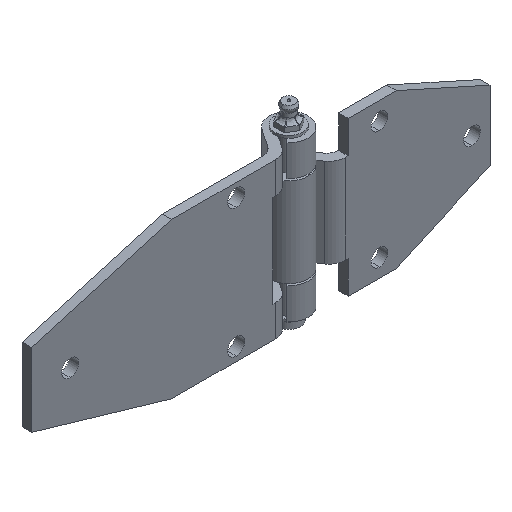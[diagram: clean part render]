
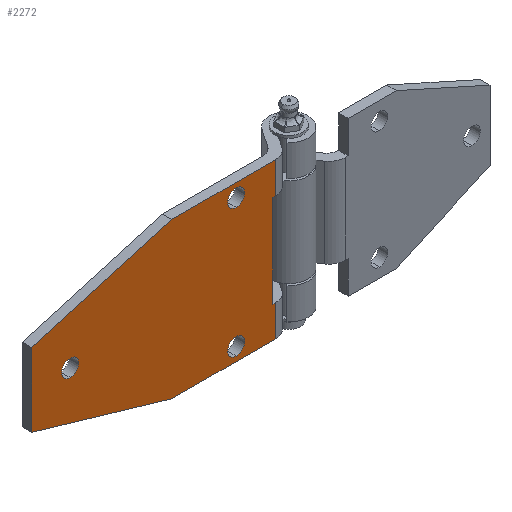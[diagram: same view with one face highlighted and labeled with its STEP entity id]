
A CAD part, isometric view. The second image highlights one B-rep face of the part: STEP entity #2272.
In plain terms, the highlighted planar face has unit normal (0, -1, 0).
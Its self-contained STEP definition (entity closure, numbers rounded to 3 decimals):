
#54 = ORIENTED_EDGE ( 'NONE', *, *, #766, .F. ) ;
#80 = CARTESIAN_POINT ( 'NONE',  ( -22.429, 3.107, 0. ) ) ;
#121 = CARTESIAN_POINT ( 'NONE',  ( -38.429, 3.107, 15.249 ) ) ;
#131 = DIRECTION ( 'NONE',  ( 0., -1., 0. ) ) ;
#202 = DIRECTION ( 'NONE',  ( 0., 0., -1. ) ) ;
#221 = CARTESIAN_POINT ( 'NONE',  ( 19.777, 3.107, 32.25 ) ) ;
#300 = VECTOR ( 'NONE', #1053, 1000. ) ;
#301 = VERTEX_POINT ( 'NONE', #554 ) ;
#363 = AXIS2_PLACEMENT_3D ( 'NONE', #2407, #2069, #578 ) ;
#395 = DIRECTION ( 'NONE',  ( 0., 0., -1. ) ) ;
#429 = CARTESIAN_POINT ( 'NONE',  ( 61.777, 3.107, -19.25 ) ) ;
#452 = CARTESIAN_POINT ( 'NONE',  ( 66.571, 3.107, -32.25 ) ) ;
#480 = DIRECTION ( 'NONE',  ( 0., 0., 1. ) ) ;
#505 = CARTESIAN_POINT ( 'NONE',  ( 62.842, 3.107, 32.25 ) ) ;
#510 = CARTESIAN_POINT ( 'NONE',  ( 62.842, 3.107, -19.25 ) ) ;
#554 = CARTESIAN_POINT ( 'NONE',  ( 46.571, 3.107, 23.25 ) ) ;
#556 = EDGE_CURVE ( 'NONE', #643, #1137, #3420, .T. ) ;
#560 = VECTOR ( 'NONE', #1677, 1000. ) ;
#563 = VECTOR ( 'NONE', #3129, 1000. ) ;
#578 = DIRECTION ( 'NONE',  ( 0., 0., -1. ) ) ;
#594 = VECTOR ( 'NONE', #1358, 1000. ) ;
#621 = ORIENTED_EDGE ( 'NONE', *, *, #1675, .F. ) ;
#643 = VERTEX_POINT ( 'NONE', #3853 ) ;
#739 = EDGE_CURVE ( 'NONE', #3652, #2517, #1593, .T. ) ;
#766 = EDGE_CURVE ( 'NONE', #3833, #3397, #3549, .T. ) ;
#769 = FACE_BOUND ( 'NONE', #3013, .T. ) ;
#774 = LINE ( 'NONE', #505, #2974 ) ;
#779 = ORIENTED_EDGE ( 'NONE', *, *, #1504, .T. ) ;
#794 = AXIS2_PLACEMENT_3D ( 'NONE', #3250, #2026, #1433 ) ;
#813 = EDGE_CURVE ( 'NONE', #1841, #301, #3320, .T. ) ;
#840 = DIRECTION ( 'NONE',  ( 0., 0., -1. ) ) ;
#847 = CARTESIAN_POINT ( 'NONE',  ( 61.777, 3.107, 19.25 ) ) ;
#854 = EDGE_CURVE ( 'NONE', #1225, #2135, #2438, .T. ) ;
#856 = CIRCLE ( 'NONE', #794, 3.5 ) ;
#894 = EDGE_CURVE ( 'NONE', #2145, #3306, #774, .T. ) ;
#920 = VECTOR ( 'NONE', #2807, 1000. ) ;
#922 = CARTESIAN_POINT ( 'NONE',  ( 62.842, 3.107, 19.25 ) ) ;
#923 = ORIENTED_EDGE ( 'NONE', *, *, #854, .F. ) ;
#1006 = FACE_OUTER_BOUND ( 'NONE', #3260, .T. ) ;
#1042 = CARTESIAN_POINT ( 'NONE',  ( 66.571, 3.107, 32.25 ) ) ;
#1048 = ORIENTED_EDGE ( 'NONE', *, *, #894, .T. ) ;
#1053 = DIRECTION ( 'NONE',  ( -1., 0., 0. ) ) ;
#1054 = EDGE_CURVE ( 'NONE', #2135, #3226, #3392, .T. ) ;
#1075 = ORIENTED_EDGE ( 'NONE', *, *, #3107, .F. ) ;
#1080 = FACE_BOUND ( 'NONE', #3639, .T. ) ;
#1137 = VERTEX_POINT ( 'NONE', #1855 ) ;
#1211 = CIRCLE ( 'NONE', #2156, 3.5 ) ;
#1225 = VERTEX_POINT ( 'NONE', #3810 ) ;
#1286 = AXIS2_PLACEMENT_3D ( 'NONE', #3701, #2136, #395 ) ;
#1295 = DIRECTION ( 'NONE',  ( 0., 0., -1. ) ) ;
#1321 = CARTESIAN_POINT ( 'NONE',  ( 46.571, 3.107, -26.75 ) ) ;
#1333 = AXIS2_PLACEMENT_3D ( 'NONE', #1042, #2279, #202 ) ;
#1358 = DIRECTION ( 'NONE',  ( -0.96, 0., 0.28 ) ) ;
#1366 = ORIENTED_EDGE ( 'NONE', *, *, #1590, .F. ) ;
#1380 = AXIS2_PLACEMENT_3D ( 'NONE', #80, #131, #1295 ) ;
#1397 = CARTESIAN_POINT ( 'NONE',  ( 19.777, 3.107, 32.25 ) ) ;
#1406 = ORIENTED_EDGE ( 'NONE', *, *, #3428, .T. ) ;
#1432 = ORIENTED_EDGE ( 'NONE', *, *, #739, .T. ) ;
#1433 = DIRECTION ( 'NONE',  ( 0., 0., -1. ) ) ;
#1504 = EDGE_CURVE ( 'NONE', #3306, #2635, #3436, .T. ) ;
#1533 = DIRECTION ( 'NONE',  ( 0., 0., -1. ) ) ;
#1548 = ORIENTED_EDGE ( 'NONE', *, *, #556, .F. ) ;
#1590 = EDGE_CURVE ( 'NONE', #301, #1841, #856, .T. ) ;
#1593 = LINE ( 'NONE', #2775, #3413 ) ;
#1661 = CARTESIAN_POINT ( 'NONE',  ( -22.429, 3.107, -3.5 ) ) ;
#1664 = ORIENTED_EDGE ( 'NONE', *, *, #3342, .F. ) ;
#1675 = EDGE_CURVE ( 'NONE', #3652, #2635, #2976, .T. ) ;
#1677 = DIRECTION ( 'NONE',  ( -1., 0., 0. ) ) ;
#1825 = CARTESIAN_POINT ( 'NONE',  ( 46.571, 3.107, -30.25 ) ) ;
#1832 = VERTEX_POINT ( 'NONE', #1825 ) ;
#1841 = VERTEX_POINT ( 'NONE', #2276 ) ;
#1855 = CARTESIAN_POINT ( 'NONE',  ( 19.777, 3.107, -32.25 ) ) ;
#1963 = FACE_BOUND ( 'NONE', #2320, .T. ) ;
#2026 = DIRECTION ( 'NONE',  ( 0., -1., 0. ) ) ;
#2069 = DIRECTION ( 'NONE',  ( 0., -1., 0. ) ) ;
#2135 = VERTEX_POINT ( 'NONE', #3341 ) ;
#2136 = DIRECTION ( 'NONE',  ( 0., -1., 0. ) ) ;
#2143 = DIRECTION ( 'NONE',  ( 0., -1., 0. ) ) ;
#2145 = VERTEX_POINT ( 'NONE', #922 ) ;
#2156 = AXIS2_PLACEMENT_3D ( 'NONE', #1321, #2143, #3366 ) ;
#2158 = AXIS2_PLACEMENT_3D ( 'NONE', #3558, #2200, #840 ) ;
#2200 = DIRECTION ( 'NONE',  ( 0., -1., 0. ) ) ;
#2272 = ADVANCED_FACE ( 'NONE', ( #769, #1080, #1963, #1006 ), #2839, .T. ) ;
#2276 = CARTESIAN_POINT ( 'NONE',  ( 46.571, 3.107, 30.25 ) ) ;
#2279 = DIRECTION ( 'NONE',  ( 0., -1., 0. ) ) ;
#2302 = VECTOR ( 'NONE', #1533, 1000. ) ;
#2307 = LINE ( 'NONE', #3516, #594 ) ;
#2320 = EDGE_LOOP ( 'NONE', ( #3726, #1366 ) ) ;
#2363 = VERTEX_POINT ( 'NONE', #2449 ) ;
#2407 = CARTESIAN_POINT ( 'NONE',  ( -22.429, 3.107, 0. ) ) ;
#2438 = LINE ( 'NONE', #3103, #2302 ) ;
#2449 = CARTESIAN_POINT ( 'NONE',  ( 46.571, 3.107, -23.25 ) ) ;
#2484 = VECTOR ( 'NONE', #2601, 1000. ) ;
#2514 = ORIENTED_EDGE ( 'NONE', *, *, #2565, .F. ) ;
#2517 = VERTEX_POINT ( 'NONE', #2567 ) ;
#2555 = ORIENTED_EDGE ( 'NONE', *, *, #1054, .F. ) ;
#2565 = EDGE_CURVE ( 'NONE', #1832, #2363, #2608, .T. ) ;
#2567 = CARTESIAN_POINT ( 'NONE',  ( -38.429, 3.107, -15.249 ) ) ;
#2601 = DIRECTION ( 'NONE',  ( 0.96, 0., 0.28 ) ) ;
#2608 = CIRCLE ( 'NONE', #2158, 3.5 ) ;
#2623 = EDGE_CURVE ( 'NONE', #1137, #2517, #2307, .T. ) ;
#2635 = VERTEX_POINT ( 'NONE', #1397 ) ;
#2737 = CARTESIAN_POINT ( 'NONE',  ( -22.429, 3.107, 3.5 ) ) ;
#2775 = CARTESIAN_POINT ( 'NONE',  ( -38.429, 3.107, 32.25 ) ) ;
#2799 = DIRECTION ( 'NONE',  ( 0., 0., -1. ) ) ;
#2804 = EDGE_CURVE ( 'NONE', #2145, #1225, #3796, .T. ) ;
#2807 = DIRECTION ( 'NONE',  ( 1., 0., 0. ) ) ;
#2839 = PLANE ( 'NONE',  #1333 ) ;
#2893 = CIRCLE ( 'NONE', #363, 3.5 ) ;
#2974 = VECTOR ( 'NONE', #480, 1000. ) ;
#2976 = LINE ( 'NONE', #221, #2484 ) ;
#3013 = EDGE_LOOP ( 'NONE', ( #1664, #54 ) ) ;
#3064 = CARTESIAN_POINT ( 'NONE',  ( 66.571, 3.107, 32.25 ) ) ;
#3103 = CARTESIAN_POINT ( 'NONE',  ( 61.777, 3.107, 19.25 ) ) ;
#3107 = EDGE_CURVE ( 'NONE', #2363, #1832, #1211, .T. ) ;
#3129 = DIRECTION ( 'NONE',  ( 0., 0., 1. ) ) ;
#3226 = VERTEX_POINT ( 'NONE', #510 ) ;
#3250 = CARTESIAN_POINT ( 'NONE',  ( 46.571, 3.107, 26.75 ) ) ;
#3260 = EDGE_LOOP ( 'NONE', ( #621, #1432, #3485, #1548, #1406, #2555, #923, #3794, #1048, #779 ) ) ;
#3306 = VERTEX_POINT ( 'NONE', #3307 ) ;
#3307 = CARTESIAN_POINT ( 'NONE',  ( 62.842, 3.107, 32.25 ) ) ;
#3309 = VECTOR ( 'NONE', #3506, 1000. ) ;
#3320 = CIRCLE ( 'NONE', #1286, 3.5 ) ;
#3341 = CARTESIAN_POINT ( 'NONE',  ( 61.777, 3.107, -19.25 ) ) ;
#3342 = EDGE_CURVE ( 'NONE', #3397, #3833, #2893, .T. ) ;
#3366 = DIRECTION ( 'NONE',  ( 0., 0., -1. ) ) ;
#3392 = LINE ( 'NONE', #429, #920 ) ;
#3397 = VERTEX_POINT ( 'NONE', #2737 ) ;
#3413 = VECTOR ( 'NONE', #2799, 1000. ) ;
#3420 = LINE ( 'NONE', #452, #300 ) ;
#3428 = EDGE_CURVE ( 'NONE', #643, #3226, #3435, .T. ) ;
#3435 = LINE ( 'NONE', #3667, #563 ) ;
#3436 = LINE ( 'NONE', #3064, #560 ) ;
#3485 = ORIENTED_EDGE ( 'NONE', *, *, #2623, .F. ) ;
#3506 = DIRECTION ( 'NONE',  ( -1., 0., 0. ) ) ;
#3516 = CARTESIAN_POINT ( 'NONE',  ( -38.429, 3.107, -15.249 ) ) ;
#3549 = CIRCLE ( 'NONE', #1380, 3.5 ) ;
#3558 = CARTESIAN_POINT ( 'NONE',  ( 46.571, 3.107, -26.75 ) ) ;
#3639 = EDGE_LOOP ( 'NONE', ( #1075, #2514 ) ) ;
#3652 = VERTEX_POINT ( 'NONE', #121 ) ;
#3667 = CARTESIAN_POINT ( 'NONE',  ( 62.842, 3.107, 32.25 ) ) ;
#3701 = CARTESIAN_POINT ( 'NONE',  ( 46.571, 3.107, 26.75 ) ) ;
#3726 = ORIENTED_EDGE ( 'NONE', *, *, #813, .F. ) ;
#3794 = ORIENTED_EDGE ( 'NONE', *, *, #2804, .F. ) ;
#3796 = LINE ( 'NONE', #847, #3309 ) ;
#3810 = CARTESIAN_POINT ( 'NONE',  ( 61.777, 3.107, 19.25 ) ) ;
#3833 = VERTEX_POINT ( 'NONE', #1661 ) ;
#3853 = CARTESIAN_POINT ( 'NONE',  ( 62.842, 3.107, -32.25 ) ) ;
